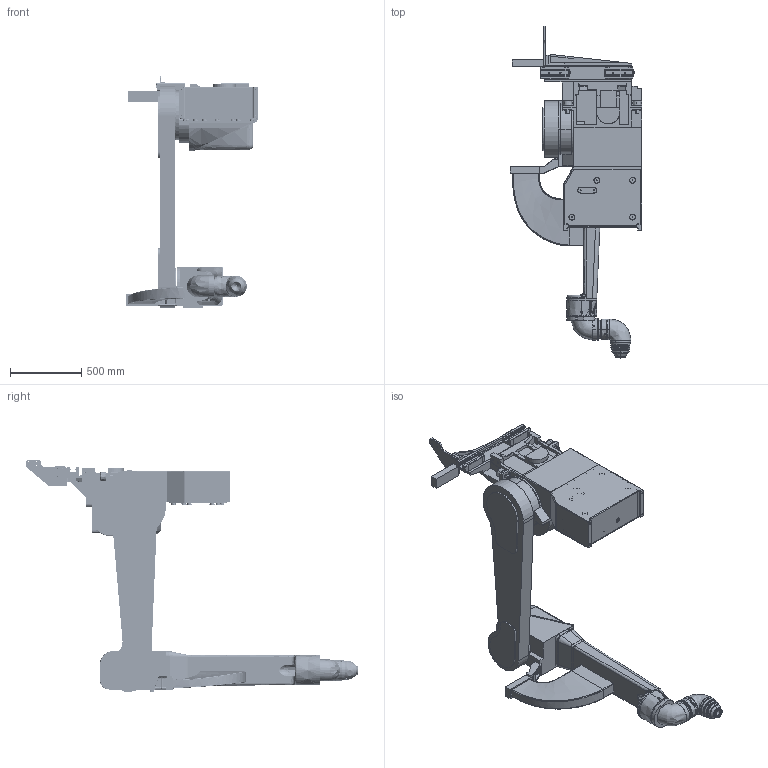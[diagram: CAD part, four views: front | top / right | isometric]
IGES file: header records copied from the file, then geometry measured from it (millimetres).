
Start section: SolidWorks IGES FILE using analytic representation for surfaces
Global section: file name: \\hqdata02\pdmedropbox\Robot_Solid_Models\P-500\top machine\P-500 Top Machine.IGS; native system: SolidWorks 2001Plus by SolidWorks Corporation; preprocessor: Version 5.3; author: chuijh; date: 030217.143103; units: millimetre
Bounding box: 921.5 x 2322.4 x 1620.4 mm (x, y, z)
Surface area: 9110142.5 mm2 (no closed solid volume)
Topology: 0 solids, 0 shells, 2434 faces, 26575 edges, 26447 vertices
Faces by surface type: revolution 1260, bspline 1174
